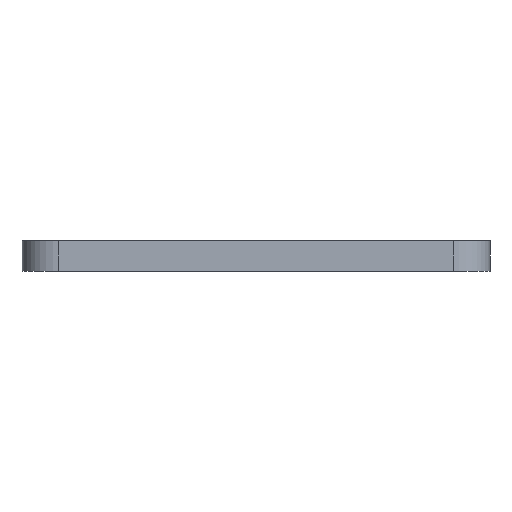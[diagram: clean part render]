
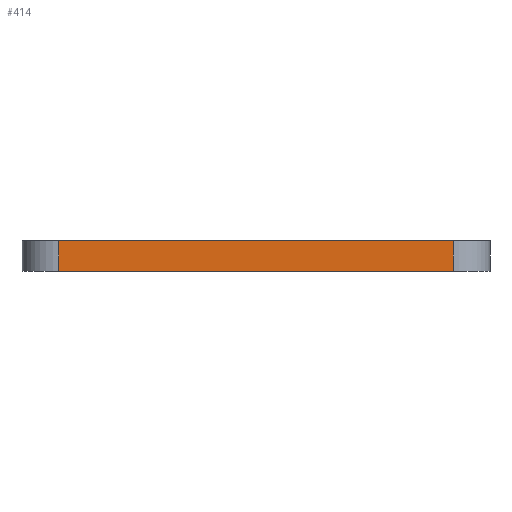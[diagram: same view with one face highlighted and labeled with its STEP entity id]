
A CAD part, front view. The second image highlights one B-rep face of the part: STEP entity #414.
In plain terms, the highlighted planar face has unit normal (0, -1, 0).
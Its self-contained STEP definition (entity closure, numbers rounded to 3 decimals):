
#30 = CARTESIAN_POINT ( 'NONE',  ( 32., -52.5, 5. ) ) ;
#42 = EDGE_CURVE ( 'NONE', #1209, #902, #545, .T. ) ;
#61 = CARTESIAN_POINT ( 'NONE',  ( 32., -52.5, 0. ) ) ;
#103 = VECTOR ( 'NONE', #738, 1000. ) ;
#139 = LINE ( 'NONE', #1410, #188 ) ;
#167 = EDGE_CURVE ( 'NONE', #1209, #757, #1327, .T. ) ;
#169 = AXIS2_PLACEMENT_3D ( 'NONE', #872, #876, #441 ) ;
#188 = VECTOR ( 'NONE', #1074, 1000. ) ;
#237 = LINE ( 'NONE', #555, #579 ) ;
#389 = EDGE_CURVE ( 'NONE', #757, #488, #237, .T. ) ;
#414 = ADVANCED_FACE ( 'NONE', ( #1097 ), #881, .F. ) ;
#441 = DIRECTION ( 'NONE',  ( -1., 0., 0. ) ) ;
#488 = VERTEX_POINT ( 'NONE', #61 ) ;
#545 = LINE ( 'NONE', #1241, #1186 ) ;
#546 = ORIENTED_EDGE ( 'NONE', *, *, #389, .T. ) ;
#555 = CARTESIAN_POINT ( 'NONE',  ( 32., -52.5, 0. ) ) ;
#579 = VECTOR ( 'NONE', #1000, 1000. ) ;
#687 = EDGE_LOOP ( 'NONE', ( #546, #735, #871, #822 ) ) ;
#721 = CARTESIAN_POINT ( 'NONE',  ( -32., -52.5, 5. ) ) ;
#735 = ORIENTED_EDGE ( 'NONE', *, *, #751, .F. ) ;
#738 = DIRECTION ( 'NONE',  ( 0., 0., -1. ) ) ;
#751 = EDGE_CURVE ( 'NONE', #902, #488, #139, .T. ) ;
#757 = VERTEX_POINT ( 'NONE', #1200 ) ;
#822 = ORIENTED_EDGE ( 'NONE', *, *, #167, .T. ) ;
#871 = ORIENTED_EDGE ( 'NONE', *, *, #42, .F. ) ;
#872 = CARTESIAN_POINT ( 'NONE',  ( 32., -52.5, 5. ) ) ;
#876 = DIRECTION ( 'NONE',  ( 0., 1., 0. ) ) ;
#881 = PLANE ( 'NONE',  #169 ) ;
#902 = VERTEX_POINT ( 'NONE', #30 ) ;
#935 = CARTESIAN_POINT ( 'NONE',  ( -32., -52.5, 5. ) ) ;
#1000 = DIRECTION ( 'NONE',  ( 1., 0., 0. ) ) ;
#1074 = DIRECTION ( 'NONE',  ( 0., 0., -1. ) ) ;
#1097 = FACE_OUTER_BOUND ( 'NONE', #687, .T. ) ;
#1186 = VECTOR ( 'NONE', #1352, 1000. ) ;
#1200 = CARTESIAN_POINT ( 'NONE',  ( -32., -52.5, 0. ) ) ;
#1209 = VERTEX_POINT ( 'NONE', #935 ) ;
#1241 = CARTESIAN_POINT ( 'NONE',  ( 32., -52.5, 5. ) ) ;
#1327 = LINE ( 'NONE', #721, #103 ) ;
#1352 = DIRECTION ( 'NONE',  ( 1., 0., 0. ) ) ;
#1410 = CARTESIAN_POINT ( 'NONE',  ( 32., -52.5, 5. ) ) ;
